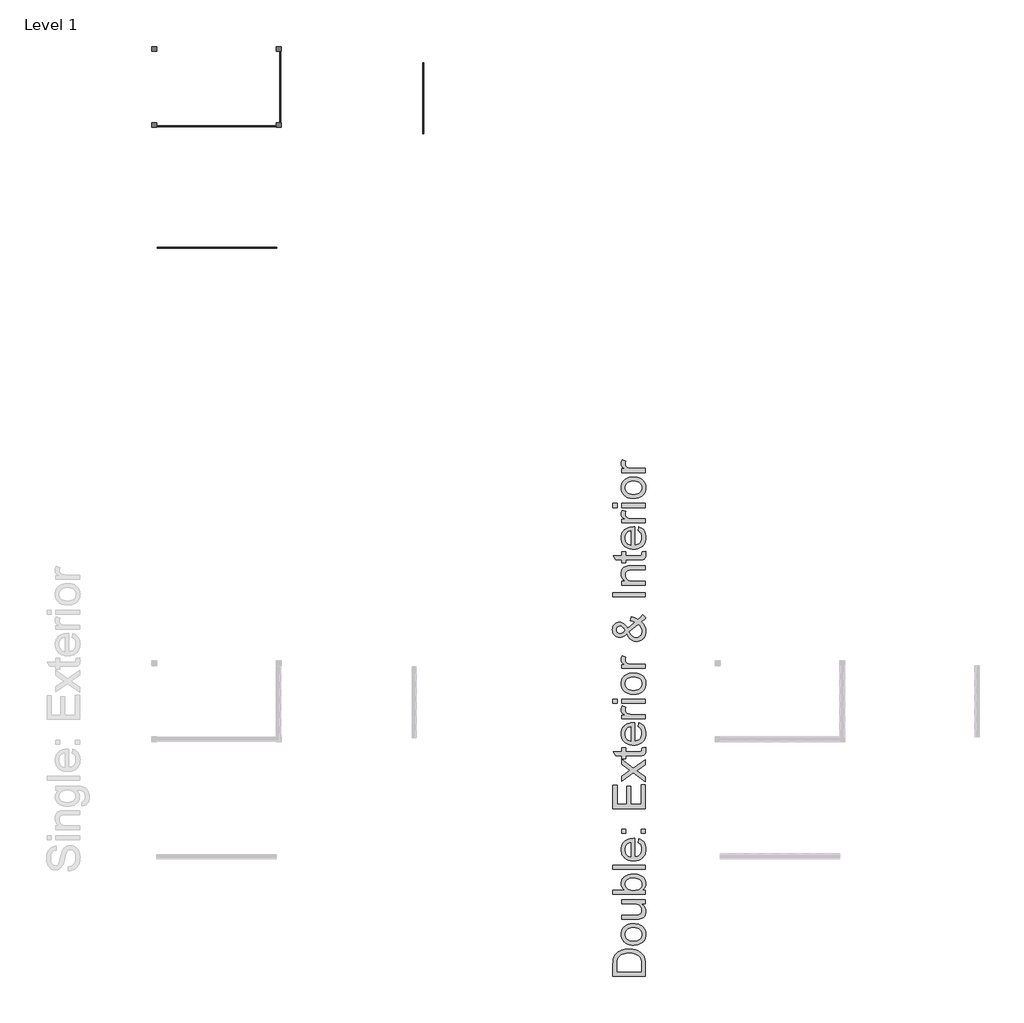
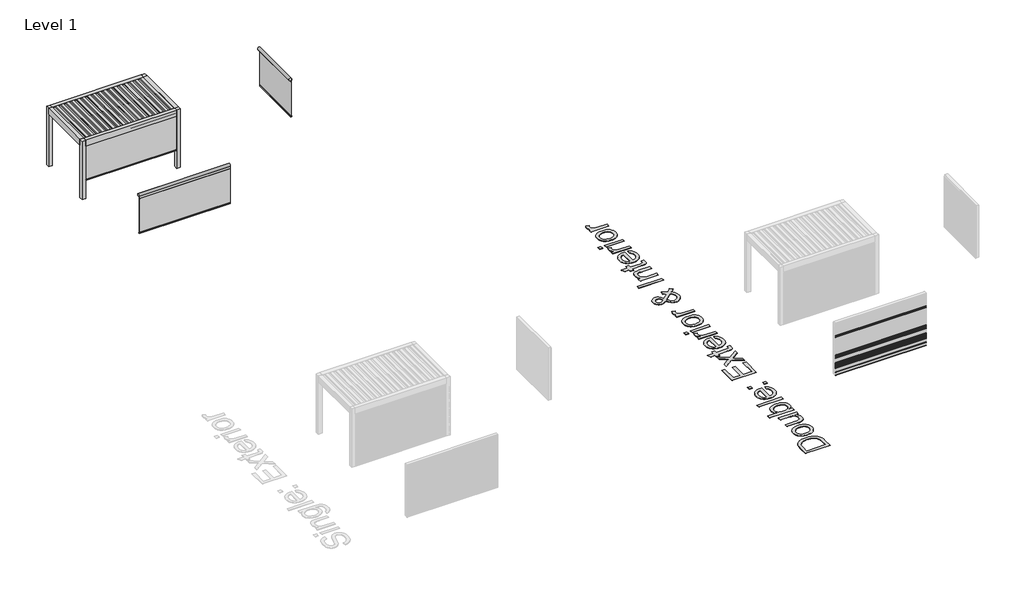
# One storey, part 62 of 69: 21 proxies.
"""IFC4 building model written with IfcOpenShell, lengths in millimetres."""

from ifc_helpers import new_model, si_unit, frame, origin, origin_with_axes, place, context, project, spatial, polyline, outline, extrude, transform, mapped, element, save
from components import generic_models_059fa392, generic_models_3550dacb, generic_models_9b0df196

model = new_model("IFC4")

# Units and contexts
model_context = context("Model", 3, world=origin())
ifc_project = project(units=[si_unit("LENGTHUNIT", "METRE", prefix="MILLI")], contexts=[model_context])

# Site, building, storey
site = spatial("IfcSite", under=ifc_project)
building = spatial("IfcBuilding", under=site)
storey = spatial("IfcBuildingStorey", under=building, Name="Level 1", Elevation=0.0)

# Proxies
placement = place(None, origin())
element("IfcBuildingElementProxy", 1, Name="Wall Sweeps", at=placement, inside=storey, context=model_context, shape_type="SweptSolid", body=[
    extrude(outline(polyline([(35894.0955424, 741.9), (35913.2455424, 752.9562577), (35913.2455424, 765.9), (35914.4955424, 765.9), (35914.4955424, 752.2345698), (35895.3455424, 741.1782281), (35895.3455424, 729.1216933), (35894.0955424, 728.4), (35894.0955424, 741.9)])), frame((224550.5749426, 0.0, 0.0), z_axis=(1.0, 0.0, 0.0), x_axis=(0.0, 1.0, 0.0)), (0.0, 0.0, 1.0), 3700.0),
])
element("IfcBuildingElementProxy", 2, Name="Wall Sweeps", at=placement, inside=storey, context=model_context, shape_type="SweptSolid", body=[
    extrude(outline(polyline([(35894.0955424, 808.5), (35913.2455424, 819.5562577), (35913.2455424, 832.5), (35914.4955424, 832.5), (35914.4955424, 818.8345698), (35895.3455424, 807.7782281), (35895.3455424, 795.7216933), (35894.0955424, 795.0), (35894.0955424, 808.5)])), frame((224550.5749426, 0.0, 0.0), z_axis=(1.0, 0.0, 0.0), x_axis=(0.0, 1.0, 0.0)), (0.0, 0.0, 1.0), 3700.0),
])
element("IfcBuildingElementProxy", 3, Name="Wall Sweeps", at=placement, inside=storey, context=model_context, shape_type="SweptSolid", body=[
    extrude(outline(polyline([(35894.0955424, 875.1), (35913.2455424, 886.1562577), (35913.2455424, 899.1), (35914.4955424, 899.1), (35914.4955424, 885.4345698), (35895.3455424, 874.3782281), (35895.3455424, 862.3216933), (35894.0955424, 861.6), (35894.0955424, 875.1)])), frame((224550.5749426, 0.0, 0.0), z_axis=(1.0, 0.0, 0.0), x_axis=(0.0, 1.0, 0.0)), (0.0, 0.0, 1.0), 3700.0),
])
element("IfcBuildingElementProxy", 4, Name="Wall Sweeps", at=placement, inside=storey, context=model_context, shape_type="SweptSolid", body=[
    extrude(outline(polyline([(35894.0955424, 1641.0), (35913.2455424, 1652.0562577), (35913.2455424, 1665.0), (35914.4955424, 1665.0), (35914.4955424, 1651.3345698), (35895.3455424, 1640.2782281), (35895.3455424, 1628.2216933), (35894.0955424, 1627.5), (35894.0955424, 1641.0)])), frame((224550.5749426, 0.0, 0.0), z_axis=(1.0, 0.0, 0.0), x_axis=(0.0, 1.0, 0.0)), (0.0, 0.0, 1.0), 3700.0),
])
element("IfcBuildingElementProxy", 5, Name="Wall Sweeps", at=placement, inside=storey, context=model_context, shape_type="SweptSolid", body=[
    extrude(outline(polyline([(35894.0955424, 142.5), (35913.2455424, 153.5562577), (35913.2455424, 166.5), (35914.4955424, 166.5), (35914.4955424, 152.8345698), (35895.3455424, 141.7782281), (35895.3455424, 129.7216933), (35894.0955424, 129.0), (35894.0955424, 142.5)])), frame((224550.5749426, 0.0, 0.0), z_axis=(1.0, 0.0, 0.0), x_axis=(0.0, 1.0, 0.0)), (0.0, 0.0, 1.0), 3700.0),
])
element("IfcBuildingElementProxy", 6, Name="Wall Sweeps", at=placement, inside=storey, context=model_context, shape_type="SweptSolid", body=[
    extrude(outline(polyline([(35894.0955424, 1707.6), (35913.2455424, 1718.6562577), (35913.2455424, 1731.6), (35914.4955424, 1731.6), (35914.4955424, 1717.9345698), (35895.3455424, 1706.8782281), (35895.3455424, 1694.8216933), (35894.0955424, 1694.1), (35894.0955424, 1707.6)])), frame((224550.5749426, 0.0, 0.0), z_axis=(1.0, 0.0, 0.0), x_axis=(0.0, 1.0, 0.0)), (0.0, 0.0, 1.0), 3700.0),
])
element("IfcBuildingElementProxy", 7, Name="Wall Sweeps", at=placement, inside=storey, context=model_context, shape_type="SweptSolid", body=[
    extrude(outline(polyline([(35894.0955424, 309.0), (35913.2455424, 320.0562577), (35913.2455424, 333.0), (35914.4955424, 333.0), (35914.4955424, 319.3345698), (35895.3455424, 308.2782281), (35895.3455424, 296.2216933), (35894.0955424, 295.5), (35894.0955424, 309.0)])), frame((224550.5749426, 0.0, 0.0), z_axis=(1.0, 0.0, 0.0), x_axis=(0.0, 1.0, 0.0)), (0.0, 0.0, 1.0), 3700.0),
])
element("IfcBuildingElementProxy", 8, Name="Wall Sweeps", at=placement, inside=storey, context=model_context, shape_type="SweptSolid", body=[
    extrude(outline(polyline([(35894.0955424, 9.3), (35913.2455424, 20.3562577), (35913.2455424, 33.3), (35914.4955424, 33.3), (35914.4955424, 19.6345698), (35895.3455424, 8.5782281), (35895.3455424, -3.4783067), (35894.0955424, -4.2), (35894.0955424, 9.3)])), frame((224550.5749426, 0.0, 0.0), z_axis=(1.0, 0.0, 0.0), x_axis=(0.0, 1.0, 0.0)), (0.0, 0.0, 1.0), 3700.0),
])
element("IfcBuildingElementProxy", 9, Name="Wall Sweeps", at=placement, inside=storey, context=model_context, shape_type="SweptSolid", body=[
    extrude(outline(polyline([(35894.0955424, 342.3), (35913.2455424, 353.3562577), (35913.2455424, 366.3), (35914.4955424, 366.3), (35914.4955424, 352.6345698), (35895.3455424, 341.5782281), (35895.3455424, 329.5216933), (35894.0955424, 328.8), (35894.0955424, 342.3)])), frame((224550.5749426, 0.0, 0.0), z_axis=(1.0, 0.0, 0.0), x_axis=(0.0, 1.0, 0.0)), (0.0, 0.0, 1.0), 3700.0),
])
element("IfcBuildingElementProxy", 10, Name="Wall Sweeps", at=placement, inside=storey, context=model_context, shape_type="SweptSolid", body=[
    extrude(outline(polyline([(35894.0955424, 375.6), (35913.2455424, 386.6562577), (35913.2455424, 399.6), (35914.4955424, 399.6), (35914.4955424, 385.9345698), (35895.3455424, 374.8782281), (35895.3455424, 362.8216933), (35894.0955424, 362.1), (35894.0955424, 375.6)])), frame((224550.5749426, 0.0, 0.0), z_axis=(1.0, 0.0, 0.0), x_axis=(0.0, 1.0, 0.0)), (0.0, 0.0, 1.0), 3700.0),
])
element("IfcBuildingElementProxy", 11, Name="Wall Sweeps", at=placement, inside=storey, context=model_context, shape_type="SweptSolid", body=[
    extrude(outline(polyline([(35894.0955424, 408.9), (35913.2455424, 419.9562577), (35913.2455424, 432.9), (35914.4955424, 432.9), (35914.4955424, 419.2345698), (35895.3455424, 408.1782281), (35895.3455424, 396.1216933), (35894.0955424, 395.4), (35894.0955424, 408.9)])), frame((224550.5749426, 0.0, 0.0), z_axis=(1.0, 0.0, 0.0), x_axis=(0.0, 1.0, 0.0)), (0.0, 0.0, 1.0), 3700.0),
])
element("IfcBuildingElementProxy", 12, Name="Wall Sweeps", at=placement, inside=storey, context=model_context, shape_type="SweptSolid", body=[
    extrude(outline(polyline([(35894.0955424, 442.2), (35913.2455424, 453.2562577), (35913.2455424, 466.2), (35914.4955424, 466.2), (35914.4955424, 452.5345698), (35895.3455424, 441.4782281), (35895.3455424, 429.4216933), (35894.0955424, 428.7), (35894.0955424, 442.2)])), frame((224550.5749426, 0.0, 0.0), z_axis=(1.0, 0.0, 0.0), x_axis=(0.0, 1.0, 0.0)), (0.0, 0.0, 1.0), 3700.0),
])
element("IfcBuildingElementProxy", 13, Name="Wall Sweeps", at=placement, inside=storey, context=model_context, shape_type="SweptSolid", body=[
    extrude(outline(polyline([(35894.0955424, 475.5), (35913.2455424, 486.5562577), (35913.2455424, 499.5), (35914.4955424, 499.5), (35914.4955424, 485.8345698), (35895.3455424, 474.7782281), (35895.3455424, 462.7216933), (35894.0955424, 462.0), (35894.0955424, 475.5)])), frame((224550.5749426, 0.0, 0.0), z_axis=(1.0, 0.0, 0.0), x_axis=(0.0, 1.0, 0.0)), (0.0, 0.0, 1.0), 3700.0),
])
element("IfcBuildingElementProxy", 14, Name="Wall Sweeps", at=placement, inside=storey, context=model_context, shape_type="SweptSolid", body=[
    extrude(outline(polyline([(35894.0955424, 508.8), (35913.2455424, 519.8562577), (35913.2455424, 532.8), (35914.4955424, 532.8), (35914.4955424, 519.1345698), (35895.3455424, 508.0782281), (35895.3455424, 496.0216933), (35894.0955424, 495.3), (35894.0955424, 508.8)])), frame((224550.5749426, 0.0, 0.0), z_axis=(1.0, 0.0, 0.0), x_axis=(0.0, 1.0, 0.0)), (0.0, 0.0, 1.0), 3700.0),
])
element("IfcBuildingElementProxy", 15, Name="Wall Sweeps", at=placement, inside=storey, context=model_context, shape_type="SweptSolid", body=[
    extrude(outline(polyline([(35894.0955424, 542.1), (35913.2455424, 553.1562577), (35913.2455424, 566.1), (35914.4955424, 566.1), (35914.4955424, 552.4345698), (35895.3455424, 541.3782281), (35895.3455424, 529.3216933), (35894.0955424, 528.6), (35894.0955424, 542.1)])), frame((224550.5749426, 0.0, 0.0), z_axis=(1.0, 0.0, 0.0), x_axis=(0.0, 1.0, 0.0)), (0.0, 0.0, 1.0), 3700.0),
])
generic_models_shape = generic_models_059fa392(model_context)
element("IfcBuildingElementProxy", 16, Name="Renson_Camargue_Fixscreen : Renson_Camargue_Fixscreen", ObjectType="Renson_Camargue_Fixscreen : Renson_Camargue_Fixscreen", at=placement, inside=storey, context=model_context, shape_type="MappedRepresentation", body=[
    mapped(generic_models_shape, transform((208975.5749426, 58550.0525873, 0.0), x_axis=(1.0, 0.0, 0.0), y_axis=(0.0, 1.0, 0.0), z_axis=(0.0, 0.0, 1.0))),
])
element("IfcBuildingElementProxy", 17, Name="Renson_Camargue_Fixscreen : Renson_Camargue_Fixscreen", ObjectType="Renson_Camargue_Fixscreen : Renson_Camargue_Fixscreen", at=placement, inside=storey, context=model_context, shape_type="MappedRepresentation", body=[
    mapped(generic_models_shape, transform((208990.5749426, 54786.9887613, 0.0), x_axis=(1.0, 0.0, 0.0), y_axis=(0.0, 1.0, 0.0), z_axis=(0.0, 0.0, 1.0))),
])
generic_models_2_shape = generic_models_3550dacb(model_context)
element("IfcBuildingElementProxy", 18, Name="Renson_Camargue_Fixscreen : Renson_Camargue_Fixscreen", ObjectType="Renson_Camargue_Fixscreen : Renson_Camargue_Fixscreen", at=placement, inside=storey, context=model_context, shape_type="MappedRepresentation", body=[
    mapped(generic_models_2_shape, transform((210940.5749426, 59765.0525873, 0.0), x_axis=(0.0, 1.0, 0.0), y_axis=(-1.0, 0.0, 0.0), z_axis=(0.0, 0.0, 1.0))),
])
element("IfcBuildingElementProxy", 19, Name="Renson_Camargue_Fixscreen : Renson_Camargue_Fixscreen", ObjectType="Renson_Camargue_Fixscreen : Renson_Camargue_Fixscreen", at=placement, inside=storey, context=model_context, shape_type="MappedRepresentation", body=[
    mapped(generic_models_2_shape, transform((215365.5749426, 59415.0525873, 0.0), x_axis=(0.0, 1.0, 0.0), y_axis=(-1.0, 0.0, 0.0), z_axis=(0.0, 0.0, 1.0))),
])
generic_models_3_shape = generic_models_9b0df196(model_context)
element("IfcBuildingElementProxy", 20, Name="Renson_Camargue_Freestanding_Patio covers : Renson_Camargue_Freestanding_Patio covers", ObjectType="Renson_Camargue_Freestanding_Patio covers : Renson_Camargue_Freestanding_Patio covers", at=placement, inside=storey, context=model_context, shape_type="MappedRepresentation", body=[
    mapped(generic_models_3_shape, transform((208975.5749426, 59765.0525873, 0.0), x_axis=(1.0, 0.0, 0.0), y_axis=(0.0, 1.0, 0.0), z_axis=(0.0, 0.0, 1.0))),
])
element("IfcBuildingElementProxy", 21, Name="1000mm Arial", ObjectType="1000mm Arial", at=placement, inside=storey, context=model_context, shape_type="SweptSolid", body=[
    extrude(outline(polyline([(222238.2731482, 32271.9826766), (221233.7100467, 32271.9826766), (221233.7100467, 32618.527516), (221237.327553, 32722.0862977), (221248.1800719, 32797.808675), (221260.1209083, 32839.4099973), (221276.0777898, 32877.8843226), (221296.0507165, 32913.231651), (221320.0396883, 32945.4519824), (221355.9694965, 32982.684706), (221396.5591433, 33014.9203658), (221441.8086287, 33042.1589619), (221491.7179527, 33064.4004942), (221545.8272628, 33081.6756195), (221603.6767066, 33094.0149948), (221665.2662839, 33101.41862), (221730.5959949, 33103.886495), (221786.1231835, 33102.2156976), (221838.4160763, 33097.2033054), (221887.4746732, 33088.8493185), (221933.2989742, 33077.1537367), (222014.079729, 33046.6195311), (222048.7449428, 33028.5013428), (222079.593381, 33008.4824309), (222131.3114581, 32964.5818462), (222170.7054885, 32916.7571868), (222199.9214502, 32861.850799), (222221.1053218, 32796.705029), (222233.9811916, 32721.1972495), (222238.2731482, 32635.2048332), (222238.2731482, 32271.9826766)]), holes=[polyline([(222112.7027605, 32397.5530643), (222112.7027605, 32619.7537894), (222108.1655493, 32711.6629745), (222102.4940352, 32749.2942369), (222094.5539155, 32781.3766126), (222072.6649367, 32833.9837379), (222058.9153472, 32855.7807461), (222043.2956908, 32874.5733847), (222018.1187667, 32897.7422862), (221988.941126, 32918.1980579), (221955.7627686, 32935.9407), (221918.5836944, 32950.9702123), (221877.3272615, 32962.9340414), (221831.9168277, 32971.4796336), (221782.3523931, 32976.6069889), (221728.6339576, 32978.3161073), (221655.7320089, 32974.9668483), (221591.7818554, 32964.9190713), (221536.7834971, 32948.1727763), (221490.736934, 32924.7279634), (221452.5998339, 32896.485356), (221421.3298643, 32865.345678), (221396.9270253, 32831.3089292), (221379.3913168, 32794.3751097), (221370.5928058, 32762.4613467), (221364.308155, 32722.1476113), (221359.2804344, 32616.3202241), (221359.2804344, 32397.5530643), (222112.7027605, 32397.5530643)])]), origin_with_axes(), (0.0, 0.0, 1.0), 5.0),
    extrude(outline(polyline([(221869.4101344, 33229.4568827), (221819.9874876, 33231.1545048), (221773.8681146, 33236.2473712), (221731.0520153, 33244.7354818), (221691.5391897, 33256.6188367), (221655.3296379, 33271.8974358), (221622.4233599, 33290.5712791), (221592.8203556, 33312.6403668), (221566.520625, 33338.1046986), (221530.7900863, 33385.9600148), (221505.2682728, 33438.781738), (221489.9551848, 33496.569868), (221484.8508221, 33559.324405), (221486.4047403, 33594.7924447), (221491.066495, 33628.6011833), (221498.8360861, 33660.7506207), (221509.7135136, 33691.2407571), (221523.6987776, 33720.0715925), (221540.791878, 33747.2431267), (221560.9928149, 33772.7553599), (221584.3015881, 33796.6082919), (221610.3503159, 33818.1926184), (221638.7711161, 33836.8990346), (221669.5639887, 33852.7275407), (221702.7289338, 33865.6781365), (221738.2659513, 33875.7508222), (221776.1750413, 33882.9455977), (221859.1094385, 33888.7014181), (221926.3245447, 33886.1569009), (221985.9674132, 33878.5233495), (222038.0380439, 33865.8007639), (222082.5364369, 33847.9891439), (222120.9724412, 33825.3107518), (222154.8559058, 33797.9878494), (222184.1868307, 33766.0204369), (222208.965216, 33729.4085141), (222228.6545669, 33689.577624), (222242.718389, 33647.953309), (222251.1566823, 33604.5355694), (222253.9694467, 33559.324405), (222252.4212766, 33523.2968782), (222247.7767664, 33489.0359513), (222240.0359161, 33456.5416245), (222229.1987257, 33425.8138976), (222215.2651951, 33396.8527708), (222198.2353244, 33369.6582439), (222178.1091136, 33344.230317), (222154.8865627, 33320.5689902), (222128.7516126, 33299.21459), (222099.8882044, 33280.7074431), (222068.296338, 33265.0475497), (222033.9760136, 33252.2349096), (221996.927231, 33242.2695228), (221957.1499903, 33235.1513894), (221869.4101344, 33229.4568827)]), holes=[polyline([(221869.1648797, 33355.0272704), (221930.0723426, 33358.6601051), (221982.8097594, 33369.5586092), (222027.3771303, 33387.7227827), (222063.7744552, 33413.1526256), (222092.0477194, 33444.08537), (222112.2429081, 33478.7582481), (222124.3600213, 33517.1712598), (222128.399059, 33559.324405), (222124.3370286, 33601.2629525), (222112.1509376, 33639.52268), (222091.8407857, 33674.1035875), (222063.4065732, 33705.0056751), (222026.6490305, 33730.435518), (221981.3688883, 33748.5996916), (221927.5661465, 33759.4981957), (221865.2408051, 33763.1310304), (221806.2647228, 33759.475203), (221754.9068634, 33748.5077211), (221711.167227, 33730.2285844), (221675.0458136, 33704.6377931), (221646.7725494, 33673.6207424), (221626.5773608, 33639.0628275), (221614.4602475, 33600.9640484), (221610.4212098, 33559.324405), (221614.4449191, 33517.1712598), (221626.5160471, 33478.7582481), (221646.6345937, 33444.08537), (221674.800559, 33413.1526256), (221711.0905849, 33387.7227827), (221755.5813137, 33369.5586092), (221808.2727453, 33358.6601051), (221869.1648797, 33355.0272704)])]), origin_with_axes(), (0.0, 0.0, 1.0), 5.0),
    extrude(outline(polyline([(222238.2731482, 34500.857058), (222111.4764872, 34500.857058), (222144.8732746, 34479.0753782), (222173.817157, 34455.4236316), (222198.3081344, 34429.9018182), (222218.3462068, 34402.509938), (222233.9313743, 34373.2479909), (222245.0636367, 34342.1159771), (222251.7429942, 34309.1138965), (222253.9694467, 34274.241749), (222252.4059482, 34243.1327278), (222247.7154528, 34213.0813673), (222239.8979604, 34184.0876676), (222228.953471, 34156.1516285), (222200.7491847, 34108.3882828), (222184.2558086, 34089.7949137), (222166.1682772, 34074.7270803), (222124.1684161, 34052.0716807), (222073.7072691, 34037.3257441), (222026.1278643, 34031.8075142), (221956.9660493, 34029.9681042), (221500.5471206, 34029.9681042), (221500.5471206, 34155.5384919), (221897.8596754, 34155.5384919), (221977.3221863, 34157.4392155), (222025.8826097, 34163.1413865), (222048.5150166, 34170.6599747), (222068.587578, 34181.4435157), (222086.1002938, 34195.4920094), (222101.053164, 34212.8054558), (222113.0169931, 34232.8626887), (222121.5625853, 34255.1425421), (222126.6899406, 34279.6450158), (222128.399059, 34306.3701099), (222126.6516195, 34333.8922817), (222121.4093011, 34360.5407337), (222112.6721037, 34386.315466), (222100.4400274, 34411.2164785), (222085.1959172, 34433.8948707), (222067.4226183, 34453.0017418), (222047.1201307, 34468.5370919), (222024.2884544, 34480.500921), (221997.4713898, 34489.4067309), (221965.2127373, 34495.7680238), (221884.3706689, 34500.857058), (221500.5471206, 34500.857058), (221500.5471206, 34626.4274457), (222238.2731482, 34626.4274457), (222238.2731482, 34500.857058)])), origin_with_axes(), (0.0, 0.0, 1.0), 5.0),
    extrude(outline(polyline([(222238.2731482, 34924.6571165), (222238.2731482, 34799.0867288), (221233.7100467, 34799.0867288), (221233.7100467, 34924.6571165), (221606.2518805, 34924.6571165), (221577.7985075, 34944.6377073), (221553.1389175, 34965.9518704), (221532.2731106, 34988.5996058), (221515.2010867, 35012.5809133), (221501.922846, 35037.8957931), (221492.4383883, 35064.5442451), (221486.7477136, 35092.5262694), (221484.8508221, 35121.8418659), (221486.5599405, 35154.6293487), (221491.6872959, 35186.5277834), (221500.232888, 35217.5371699), (221512.1967171, 35247.6575082), (221527.2568863, 35276.0150787), (221545.0914988, 35301.7361615), (221565.7005548, 35324.8207567), (221589.0840541, 35345.2688643), (221643.7451872, 35379.3899193), (221708.6457025, 35405.2336295), (221781.0877987, 35421.5124078), (221858.3736745, 35426.9386672), (221947.5544015, 35421.3208026), (221988.1210557, 35414.2984718), (222026.005237, 35404.4672087), (222061.2069454, 35391.8270133), (222093.726181, 35376.3778855), (222123.5629436, 35358.1198254), (222150.7172334, 35337.0528331), (222195.8900767, 35289.8489746), (222213.6365509, 35264.5513392), (222228.1563934, 35238.1232332), (222239.4496042, 35210.5646564), (222247.5161834, 35181.875609), (222252.3561309, 35152.0560908), (222253.9694467, 35121.1061019), (222251.8886142, 35090.6753631), (222245.6461166, 35061.9230859), (222235.2419539, 35034.8492703), (222220.6761261, 35009.4539164), (222201.9486333, 34985.737024), (222179.0594754, 34963.6985932), (222152.0086525, 34943.338624), (222120.7961644, 34924.6571165), (222238.2731482, 34924.6571165)]), holes=[polyline([(221864.2597865, 34924.6571165), (221920.8523001, 34926.8030948), (221968.9835278, 34933.2410297), (222008.6534696, 34943.9709212), (222039.8621255, 34958.9927694), (222078.5970339, 34989.419676), (222106.2648256, 35024.7823328), (222122.8655007, 35065.0807397), (222128.399059, 35110.3148967), (222124.3217002, 35147.869517), (222112.0896239, 35182.7876498), (222091.70283, 35215.0692948), (222063.1613185, 35244.7144523), (222026.5417316, 35269.5005017), (221981.9207113, 35287.2048227), (221929.2982575, 35297.8274153), (221868.6743704, 35301.3682795), (221806.9008521, 35297.9730353), (221753.7725606, 35287.7873025), (221709.289496, 35270.8110813), (221673.4516583, 35247.0443716), (221645.8758371, 35218.4645391), (221626.1788219, 35187.0489495), (221614.3606128, 35152.7976029), (221610.4212098, 35115.7104993), (221614.4985686, 35078.155879), (221626.7306449, 35043.2377462), (221647.1174388, 35010.9561012), (221675.6589503, 34981.3109437), (221711.9106552, 34956.5248943), (221755.4280296, 34938.8205733), (221806.2110733, 34928.1979807), (221864.2597865, 34924.6571165)])]), origin_with_axes(), (0.0, 0.0, 1.0), 5.0),
    extrude(outline(polyline([(222238.2731482, 35568.2053534), (221233.7100467, 35568.2053534), (221233.7100467, 35693.7757411), (222238.2731482, 35693.7757411), (222238.2731482, 35568.2053534)])), origin_with_axes(), (0.0, 0.0, 1.0), 5.0),
    extrude(outline(polyline([(222018.5249698, 36398.6376438), (222034.2212682, 36521.7554849), (222083.532784, 36502.87854), (222126.9888447, 36477.3950476), (222164.5894503, 36445.3050077), (222196.3346008, 36406.6084204), (222221.5498459, 36361.7038243), (222239.5607352, 36310.9897585), (222250.3672688, 36254.4662227), (222253.9694467, 36192.1332172), (222252.4155285, 36152.1145539), (222247.7537738, 36114.2188763), (222239.9841827, 36078.4461844), (222229.1067552, 36044.7964781), (222215.1214912, 36013.2697576), (222198.0283908, 35983.8660227), (222177.827454, 35956.5852735), (222154.5186807, 35931.4275099), (222128.4048072, 35908.8372562), (222099.7885697, 35889.2590362), (222068.6699682, 35872.6928501), (222035.0490027, 35859.1386979), (221998.9256733, 35848.5965795), (221960.2999798, 35841.0664949), (221919.1719224, 35836.5484441), (221875.541501, 35835.0424272), (221830.4261392, 35836.5637725), (221787.9089441, 35841.1278085), (221747.9899155, 35848.7345352), (221710.6690535, 35859.3839525), (221675.9463581, 35873.0760606), (221643.8218293, 35889.8108592), (221614.2954671, 35909.5883486), (221587.3672714, 35932.4085286), (221563.3399786, 35957.6544305), (221542.5163249, 35984.7090856), (221524.8963101, 36013.5724938), (221510.4799344, 36044.2446551), (221499.2671978, 36076.7255696), (221491.2581002, 36111.0152372), (221486.4526416, 36147.113658), (221484.8508221, 36185.0208319), (221486.4488095, 36221.6883202), (221491.2427718, 36256.6428579), (221499.2327089, 36289.884445), (221510.4186208, 36321.4130817), (221524.8005075, 36351.2287677), (221542.3783691, 36379.3315033), (221563.1522055, 36405.7212883), (221587.1220168, 36430.3981227), (221613.9888987, 36452.7297095), (221643.4539473, 36472.0837513), (221675.5171624, 36488.4602482), (221710.1785442, 36501.8592003), (221747.4380925, 36512.2806074), (221787.2958074, 36519.7244697), (221874.805737, 36525.6795595), (221908.6508806, 36524.9437955), (221908.6508806, 35960.6128149), (221958.759474, 35967.8861485), (222002.6447303, 35982.3485094), (222040.3066496, 36003.9998977), (222071.7452318, 36032.8403133), (222096.5312812, 36067.2756009), (222114.2356022, 36105.7116052), (222124.8581948, 36148.1483261), (222128.399059, 36194.5857638), (222126.7589184, 36229.3199555), (222121.8384968, 36261.4176596), (222113.637794, 36290.8788761), (222102.15681, 36317.7036049), (222087.0889766, 36341.8918461), (222068.1277255, 36363.4435996), (222045.2730565, 36382.3588655), (222018.5249698, 36398.6376438)]), holes=[polyline([(221783.0804929, 35960.6128149), (221783.0804929, 36400.1091718), (221747.5492235, 36393.6559085), (221716.7391064, 36383.1252863), (221690.6501416, 36368.5173055), (221669.282329, 36349.8319658), (221643.5305894, 36315.5882834), (221625.1364896, 36276.6234487), (221614.1000298, 36232.9374618), (221610.4212098, 36184.5303226), (221613.3566016, 36140.376819), (221622.1627768, 36099.8868069), (221636.8397356, 36063.0602863), (221657.3874778, 36029.8972573), (221682.8556418, 36002.0685172), (221712.2938656, 35981.2448635), (221745.7021493, 35967.426296), (221783.0804929, 35960.6128149)])]), origin_with_axes(), (0.0, 0.0, 1.0), 5.0),
    extrude(outline(polyline([(221626.1175083, 36682.6425441), (221500.5471206, 36682.6425441), (221500.5471206, 36808.2129318), (221626.1175083, 36808.2129318), (221626.1175083, 36682.6425441)])), origin_with_axes(), (0.0, 0.0, 1.0), 5.0),
    extrude(outline(polyline([(222238.2731482, 36682.6425441), (222112.7027605, 36682.6425441), (222112.7027605, 36808.2129318), (222238.2731482, 36808.2129318), (222238.2731482, 36682.6425441)])), origin_with_axes(), (0.0, 0.0, 1.0), 5.0),
    extrude(outline(polyline([(222238.2731482, 37451.7611687), (221233.7100467, 37451.7611687), (221233.7100467, 38173.7908979), (221359.2804344, 38173.7908979), (221359.2804344, 37577.3315564), (221657.5101052, 37577.3315564), (221657.5101052, 38142.3983009), (221783.0804929, 38142.3983009), (221783.0804929, 37577.3315564), (222112.7027605, 37577.3315564), (222112.7027605, 38189.4871963), (222238.2731482, 38189.4871963), (222238.2731482, 37451.7611687)])), origin_with_axes(), (0.0, 0.0, 1.0), 5.0),
    extrude(outline(polyline([(222238.2731482, 38283.6649871), (221867.4480971, 38551.9735889), (221500.5471206, 38299.3612856), (221500.5471206, 38450.4381582), (221677.1304783, 38572.329726), (221760.5170638, 38629.2288079), (221692.3362674, 38678.5249953), (221500.5471206, 38817.3391348), (221500.5471206, 38968.4160075), (221867.4480971, 38703.0504616), (222238.2731482, 38958.6058209), (222238.2731482, 38807.5289482), (222015.3366592, 38653.7542742), (221974.624385, 38625.5499879), (222238.2731482, 38434.7418598), (222238.2731482, 38283.6649871)])), origin_with_axes(), (0.0, 0.0, 1.0), 5.0),
    extrude(outline(polyline([(222133.5494069, 39335.316984), (222241.9519682, 39351.0132824), (222250.9650771, 39301.2878994), (222253.9694467, 39257.0807463), (222248.7577851, 39196.8094128), (222242.2432081, 39172.4219022), (222233.1228003, 39151.8664957), (222209.0265296, 39120.1060168), (222194.5411761, 39108.3644498), (222178.4310104, 39099.3819977), (222156.8332716, 39092.729465), (222125.8851987, 39087.9776559), (222035.9380509, 39084.1762086), (221626.1175083, 39084.1762086), (221626.1175083, 38989.9984178), (221500.5471206, 38989.9984178), (221500.5471206, 39084.1762086), (221321.2659616, 39084.1762086), (221247.4443079, 39209.7465963), (221500.5471206, 39209.7465963), (221500.5471206, 39335.316984), (221626.1175083, 39335.316984), (221626.1175083, 39209.7465963), (222032.2592309, 39209.7465963), (222073.5846417, 39211.4020653), (222097.0064621, 39216.3684722), (222109.9743024, 39225.0443559), (222119.9377731, 39237.8282553), (222126.2837375, 39255.9464435), (222128.399059, 39280.625194), (222133.5494069, 39335.316984)])), origin_with_axes(), (0.0, 0.0, 1.0), 5.0),
    extrude(outline(polyline([(222018.5249698, 39977.3936929), (222034.2212682, 40100.5115339), (222083.532784, 40081.6345891), (222126.9888447, 40056.1510967), (222164.5894503, 40024.0610568), (222196.3346008, 39985.3644695), (222221.5498459, 39940.4598734), (222239.5607352, 39889.7458075), (222250.3672688, 39833.2222718), (222253.9694467, 39770.8892663), (222252.4155285, 39730.870603), (222247.7537738, 39692.9749254), (222239.9841827, 39657.2022334), (222229.1067552, 39623.5525272), (222215.1214912, 39592.0258066), (222198.0283908, 39562.6220717), (222177.827454, 39535.3413225), (222154.5186807, 39510.183559), (222128.4048072, 39487.5933053), (222099.7885697, 39468.0150853), (222068.6699682, 39451.4488992), (222035.0490027, 39437.894747), (221998.9256733, 39427.3526285), (221960.2999798, 39419.822544), (221919.1719224, 39415.3044932), (221875.541501, 39413.7984763), (221830.4261392, 39415.3198216), (221787.9089441, 39419.8838576), (221747.9899155, 39427.4905843), (221710.6690535, 39438.1400016), (221675.9463581, 39451.8321096), (221643.8218293, 39468.5669083), (221614.2954671, 39488.3443977), (221587.3672714, 39511.1645777), (221563.3399786, 39536.4104796), (221542.5163249, 39563.4651347), (221524.8963101, 39592.3285429), (221510.4799344, 39623.0007042), (221499.2671978, 39655.4816187), (221491.2581002, 39689.7712863), (221486.4526416, 39725.8697071), (221484.8508221, 39763.776881), (221486.4488095, 39800.4443693), (221491.2427718, 39835.398907), (221499.2327089, 39868.6404941), (221510.4186208, 39900.1691307), (221524.8005075, 39929.9848168), (221542.3783691, 39958.0875524), (221563.1522055, 39984.4773374), (221587.1220168, 40009.1541718), (221613.9888987, 40031.4857585), (221643.4539473, 40050.8398004), (221675.5171624, 40067.2162973), (221710.1785442, 40080.6152494), (221747.4380925, 40091.0366565), (221787.2958074, 40098.4805188), (221874.805737, 40104.4356086), (221908.6508806, 40103.6998446), (221908.6508806, 39539.368864), (221958.759474, 39546.6421976), (222002.6447303, 39561.1045585), (222040.3066496, 39582.7559468), (222071.7452318, 39611.5963624), (222096.5312812, 39646.0316499), (222114.2356022, 39684.4676542), (222124.8581948, 39726.9043752), (222128.399059, 39773.3418129), (222126.7589184, 39808.0760046), (222121.8384968, 39840.1737087), (222113.637794, 39869.6349251), (222102.15681, 39896.459654), (222087.0889766, 39920.6478951), (222068.1277255, 39942.1996487), (222045.2730565, 39961.1149146), (222018.5249698, 39977.3936929)]), holes=[polyline([(221783.0804929, 39539.368864), (221783.0804929, 39978.8652209), (221747.5492235, 39972.4119575), (221716.7391064, 39961.8813354), (221690.6501416, 39947.2733545), (221669.282329, 39928.5880149), (221643.5305894, 39894.3443325), (221625.1364896, 39855.3794978), (221614.1000298, 39811.6935109), (221610.4212098, 39763.2863717), (221613.3566016, 39719.1328681), (221622.1627768, 39678.642856), (221636.8397356, 39641.8163354), (221657.3874778, 39608.6533064), (221682.8556418, 39580.8245663), (221712.2938656, 39560.0009125), (221745.7021493, 39546.1823451), (221783.0804929, 39539.368864)])]), origin_with_axes(), (0.0, 0.0, 1.0), 5.0),
    extrude(outline(polyline([(222238.2731482, 40230.0059962), (221500.5471206, 40230.0059962), (221500.5471206, 40339.8800855), (221609.6854458, 40339.8800855), (221546.4097426, 40380.4697323), (221524.5207639, 40399.5689392), (221509.1310338, 40417.8710685), (221490.920875, 40455.395032), (221484.8508221, 40496.3525608), (221487.2727119, 40527.499903), (221494.5383813, 40558.8924999), (221506.6478303, 40590.5303515), (221523.6010589, 40622.4134578), (221636.1729495, 40580.4749103), (221616.8591447, 40536.3290709), (221612.0306935, 40514.2561512), (221610.4212098, 40492.1832315), (221611.9693799, 40472.9384046), (221616.6138901, 40454.6899248), (221624.3547404, 40437.4377921), (221635.1919308, 40421.1820064), (221648.7729078, 40406.5357045), (221664.7451178, 40394.1120229), (221703.8632366, 40375.932521), (221774.0060703, 40360.6654182), (221850.5255253, 40355.5763839), (222238.2731482, 40355.5763839), (222238.2731482, 40230.0059962)])), origin_with_axes(), (0.0, 0.0, 1.0), 5.0),
    extrude(outline(polyline([(221359.2804344, 40700.8949501), (221233.7100467, 40700.8949501), (221233.7100467, 40826.4653378), (221359.2804344, 40826.4653378), (221359.2804344, 40700.8949501)])), origin_with_axes(), (0.0, 0.0, 1.0), 5.0),
    extrude(outline(polyline([(222238.2731482, 40700.8949501), (221500.5471206, 40700.8949501), (221500.5471206, 40826.4653378), (222238.2731482, 40826.4653378), (222238.2731482, 40700.8949501)])), origin_with_axes(), (0.0, 0.0, 1.0), 5.0),
    extrude(outline(polyline([(221869.4101344, 40983.4283224), (221819.9874876, 40985.1259445), (221773.8681146, 40990.2188109), (221731.0520153, 40998.7069215), (221691.5391897, 41010.5902763), (221655.3296379, 41025.8688755), (221622.4233599, 41044.5427188), (221592.8203556, 41066.6118064), (221566.520625, 41092.0761383), (221530.7900863, 41139.9314545), (221505.2682728, 41192.7531776), (221489.9551848, 41250.5413077), (221484.8508221, 41313.2958447), (221486.4047403, 41348.7638844), (221491.066495, 41382.5726229), (221498.8360861, 41414.7220604), (221509.7135136, 41445.2121968), (221523.6987776, 41474.0430321), (221540.791878, 41501.2145664), (221560.9928149, 41526.7267995), (221584.3015881, 41550.5797316), (221610.3503159, 41572.164058), (221638.7711161, 41590.8704743), (221669.5639887, 41606.6989803), (221702.7289338, 41619.6495762), (221738.2659513, 41629.7222619), (221776.1750413, 41636.9170373), (221859.1094385, 41642.6728577), (221926.3245447, 41640.1283406), (221985.9674132, 41632.4947892), (222038.0380439, 41619.7722035), (222082.5364369, 41601.9605836), (222120.9724412, 41579.2821914), (222154.8559058, 41551.9592891), (222184.1868307, 41519.9918765), (222208.965216, 41483.3799538), (222228.6545669, 41443.5490636), (222242.718389, 41401.9247487), (222251.1566823, 41358.5070091), (222253.9694467, 41313.2958447), (222252.4212766, 41277.2683179), (222247.7767664, 41243.007391), (222240.0359161, 41210.5130642), (222229.1987257, 41179.7853373), (222215.2651951, 41150.8242104), (222198.2353244, 41123.6296836), (222178.1091136, 41098.2017567), (222154.8865627, 41074.5404298), (222128.7516126, 41053.1860297), (222099.8882044, 41034.6788828), (222068.296338, 41019.0189893), (222033.9760136, 41006.2063492), (221996.927231, 40996.2409625), (221957.1499903, 40989.1228291), (221869.4101344, 40983.4283224)]), holes=[polyline([(221869.1648797, 41108.9987101), (221930.0723426, 41112.6315448), (221982.8097594, 41123.5300489), (222027.3771303, 41141.6942224), (222063.7744552, 41167.1240653), (222092.0477194, 41198.0568097), (222112.2429081, 41232.7296878), (222124.3600213, 41271.1426994), (222128.399059, 41313.2958447), (222124.3370286, 41355.2343922), (222112.1509376, 41393.4941197), (222091.8407857, 41428.0750272), (222063.4065732, 41458.9771148), (222026.6490305, 41484.4069577), (221981.3688883, 41502.5711312), (221927.5661465, 41513.4696353), (221865.2408051, 41517.10247), (221806.2647228, 41513.4466427), (221754.9068634, 41502.4791607), (221711.167227, 41484.2000241), (221675.0458136, 41458.6092328), (221646.7725494, 41427.5921821), (221626.5773608, 41393.0342672), (221614.4602475, 41354.935488), (221610.4212098, 41313.2958447), (221614.4449191, 41271.1426994), (221626.5160471, 41232.7296878), (221646.6345937, 41198.0568097), (221674.800559, 41167.1240653), (221711.0905849, 41141.6942224), (221755.5813137, 41123.5300489), (221808.2727453, 41112.6315448), (221869.1648797, 41108.9987101)])]), origin_with_axes(), (0.0, 0.0, 1.0), 5.0),
    extrude(outline(polyline([(222238.2731482, 41783.9395439), (221500.5471206, 41783.9395439), (221500.5471206, 41893.8136331), (221609.6854458, 41893.8136331), (221546.4097426, 41934.4032799), (221524.5207639, 41953.5024868), (221509.1310338, 41971.8046161), (221490.920875, 42009.3285796), (221484.8508221, 42050.2861084), (221487.2727119, 42081.4334506), (221494.5383813, 42112.8260476), (221506.6478303, 42144.4638991), (221523.6010589, 42176.3470054), (221636.1729495, 42134.4084579), (221616.8591447, 42090.2626185), (221612.0306935, 42068.1896988), (221610.4212098, 42046.1167791), (221611.9693799, 42026.8719522), (221616.6138901, 42008.6234724), (221624.3547404, 41991.3713397), (221635.1919308, 41975.115554), (221648.7729078, 41960.4692521), (221664.7451178, 41948.0455706), (221703.8632366, 41929.8660686), (221774.0060703, 41914.5989658), (221850.5255253, 41909.5099316), (222238.2731482, 41909.5099316), (222238.2731482, 41783.9395439)])), origin_with_axes(), (0.0, 0.0, 1.0), 5.0),
    extrude(outline(polyline([(222114.1742885, 43223.3391637), (222146.9387787, 43192.1151793), (222175.3346702, 43159.5116375), (222199.361963, 43125.5285382), (222219.0206572, 43090.1658814), (222234.3107526, 43053.3930103), (222245.2322493, 43015.1792681), (222251.7851473, 42975.5246547), (222253.9694467, 42934.4291701), (222252.3522988, 42896.7979077), (222247.5008549, 42861.1593394), (222239.4151153, 42827.5134653), (222228.0950797, 42795.8602853), (222213.5407483, 42766.1997994), (222195.752121, 42738.5320077), (222174.7291978, 42712.8569101), (222150.4719787, 42689.1745067), (222107.0465749, 42657.092131), (222061.1379676, 42634.1761484), (222012.7461568, 42620.4265588), (221961.8711425, 42615.8433623), (221916.7596129, 42619.5298465), (221873.886032, 42630.5892989), (221833.2504, 42649.0217197), (221794.8527167, 42674.8271089), (221758.7083107, 42707.9594811), (221724.8325103, 42748.3728511), (221693.2253155, 42796.0672189), (221663.8867264, 42851.0425845), (221593.0081287, 42796.2588241), (221536.8448108, 42763.3640424), (221488.8975241, 42746.9013231), (221442.66702, 42741.41375), (221398.7817637, 42745.7363634), (221357.8702201, 42758.7042038), (221319.9323894, 42780.317271), (221284.9682714, 42810.5755651), (221255.6756675, 42847.379093), (221234.7523791, 42888.6278617), (221222.198406, 42934.3218712), (221218.0137483, 42984.4611215), (221222.014465, 43032.3317661), (221234.0166151, 43075.6345426), (221254.0201986, 43114.369451), (221282.0252154, 43148.5364913), (221315.6404327, 43176.4342093), (221352.4746175, 43196.3611507), (221392.5277697, 43208.3173155), (221435.7998894, 43212.3027038), (221471.4384577, 43209.3519836), (221505.7587822, 43200.4998231), (221538.7608628, 43185.7462223), (221570.4446997, 43165.0911811), (221600.8102927, 43138.5346996), (221629.8576419, 43106.0767777), (221657.5867473, 43067.7174155), (221683.9976088, 43023.456613), (221910.3676632, 43205.1903186), (221845.6817457, 43236.1537198), (221771.308269, 43259.3915992), (221798.5315367, 43384.9619869), (221859.9218446, 43367.0890533), (221914.8435608, 43346.3343774), (221963.2966853, 43322.6979592), (222005.281218, 43296.1797987), (222048.7219502, 43330.7607063), (222088.5451762, 43367.5489058), (222124.7508959, 43406.5443973), (222157.3391093, 43447.7471807), (222253.9694467, 43353.56939), (222227.481943, 43321.7935826), (222195.3535821, 43289.4966091), (222114.1742885, 43223.3391637)]), holes=[polyline([(221604.7803525, 42959.9356551), (221563.1177166, 43025.6025913), (221544.3327422, 43047.9054372), (221526.9119969, 43063.1878684), (221491.6872959, 43080.8462042), (221452.9677159, 43086.7323161), (221429.9214417, 43084.7932714), (221409.0977879, 43078.9761374), (221390.4967546, 43069.280914), (221374.1183416, 43055.7076012), (221360.7596266, 43039.2218893), (221351.2176874, 43020.7894685), (221345.4925238, 43000.4103388), (221343.584136, 42978.0845002), (221345.4771954, 42955.2834807), (221351.1563737, 42934.459827), (221360.6216709, 42915.6135389), (221373.8730869, 42898.7446166), (221389.8529611, 42884.8494071), (221407.5036326, 42874.9242574), (221426.8251016, 42868.9691676), (221447.8173679, 42866.9841377), (221470.2275128, 42869.681939), (221493.8026173, 42877.7753429), (221518.6653088, 42891.325663), (221544.9382147, 42910.3942131), (221604.7803525, 42959.9356551)]), polyline([(222023.6753177, 43139.2168141), (221743.8397467, 42915.0540517), (221771.6608226, 42868.0801195), (221798.470223, 42829.4295173), (221824.2679479, 42799.1022454), (221849.0539973, 42777.0983035), (221873.2728954, 42761.4863113), (221897.369166, 42750.3348884), (221921.3428094, 42743.6440346), (221945.1938254, 42741.41375), (221974.5324145, 42744.4641049), (222004.4228266, 42753.6151695), (222034.8650617, 42768.8669439), (222065.8591198, 42790.219428), (222093.2203432, 42817.1667842), (222112.7640742, 42849.2031746), (222124.4903128, 42886.3285993), (222128.399059, 42928.5430582), (222126.5749774, 42956.7243519), (222121.1027328, 42985.3501696), (222111.982325, 43014.4205114), (222099.2137541, 43043.9353774), (222083.5481124, 43072.1933131), (222065.7364925, 43097.4928645), (222045.7788943, 43119.8340315), (222023.6753177, 43139.2168141)])]), origin_with_axes(), (0.0, 0.0, 1.0), 5.0),
    extrude(outline(polyline([(222238.2731482, 43997.1176269), (221233.7100467, 43997.1176269), (221233.7100467, 44122.6880145), (222238.2731482, 44122.6880145), (222238.2731482, 43997.1176269)])), origin_with_axes(), (0.0, 0.0, 1.0), 5.0),
    extrude(outline(polyline([(222238.2731482, 44358.1324915), (221500.5471206, 44358.1324915), (221500.5471206, 44483.7028791), (221603.5540792, 44483.7028791), (221575.7330033, 44504.419234), (221551.6214042, 44527.3275524), (221531.2192819, 44552.4278344), (221514.5266364, 44579.7200799), (221501.5434676, 44609.204289), (221492.2697757, 44640.8804616), (221486.7055605, 44674.7485978), (221484.8508221, 44710.8086975), (221490.8289045, 44772.7048432), (221498.3015076, 44801.6985429), (221508.7631518, 44829.3893273), (221521.65435, 44854.7271997), (221536.4156151, 44876.6621637), (221553.046947, 44895.1942192), (221571.5483456, 44910.3233662), (221614.0693729, 44933.1627068), (221663.8867264, 44947.9699571), (221711.5274448, 44952.936364), (221785.2877848, 44954.591833), (222238.2731482, 44954.591833), (222238.2731482, 44829.0214453), (221802.2103566, 44829.0214453), (221737.2791845, 44825.403939), (221691.1099941, 44814.5514201), (221673.6432635, 44805.9291859), (221658.0312713, 44794.5325082), (221644.2740176, 44780.3613872), (221632.3715022, 44763.4158228), (221615.9087829, 44723.5312832), (221610.4212098, 44677.2088086), (221613.5022215, 44639.0793726), (221622.7452566, 44603.6630664), (221638.1503152, 44570.9598899), (221659.7173972, 44540.9698431), (221689.8990492, 44515.9155463), (221731.1478179, 44498.0196201), (221783.4637033, 44487.2820644), (221846.8467054, 44483.7028791), (222238.2731482, 44483.7028791), (222238.2731482, 44358.1324915)])), origin_with_axes(), (0.0, 0.0, 1.0), 5.0),
    extrude(outline(polyline([(222133.5494069, 45394.0881899), (222241.9519682, 45409.7844883), (222250.9650771, 45360.0591053), (222253.9694467, 45315.8519522), (222248.7577851, 45255.5806187), (222242.2432081, 45231.1931081), (222233.1228003, 45210.6377016), (222209.0265296, 45178.8772227), (222194.5411761, 45167.1356557), (222178.4310104, 45158.1532036), (222156.8332716, 45151.5006709), (222125.8851987, 45146.7488618), (222035.9380509, 45142.9474145), (221626.1175083, 45142.9474145), (221626.1175083, 45048.7696237), (221500.5471206, 45048.7696237), (221500.5471206, 45142.9474145), (221321.2659616, 45142.9474145), (221247.4443079, 45268.5178022), (221500.5471206, 45268.5178022), (221500.5471206, 45394.0881899), (221626.1175083, 45394.0881899), (221626.1175083, 45268.5178022), (222032.2592309, 45268.5178022), (222073.5846417, 45270.1732712), (222097.0064621, 45275.1396781), (222109.9743024, 45283.8155618), (222119.9377731, 45296.5994612), (222126.2837375, 45314.7176494), (222128.399059, 45339.3963999), (222133.5494069, 45394.0881899)])), origin_with_axes(), (0.0, 0.0, 1.0), 5.0),
    extrude(outline(polyline([(222018.5249698, 46036.1648988), (222034.2212682, 46159.2827398), (222083.532784, 46140.405795), (222126.9888447, 46114.9223026), (222164.5894503, 46082.8322627), (222196.3346008, 46044.1356754), (222221.5498459, 45999.2310793), (222239.5607352, 45948.5170134), (222250.3672688, 45891.9934777), (222253.9694467, 45829.6604722), (222252.4155285, 45789.6418089), (222247.7537738, 45751.7461313), (222239.9841827, 45715.9734393), (222229.1067552, 45682.3237331), (222215.1214912, 45650.7970125), (222198.0283908, 45621.3932776), (222177.827454, 45594.1125284), (222154.5186807, 45568.9547649), (222128.4048072, 45546.3645111), (222099.7885697, 45526.7862912), (222068.6699682, 45510.2201051), (222035.0490027, 45496.6659529), (221998.9256733, 45486.1238344), (221960.2999798, 45478.5937499), (221919.1719224, 45474.0756991), (221875.541501, 45472.5696822), (221830.4261392, 45474.0910275), (221787.9089441, 45478.6550635), (221747.9899155, 45486.2617902), (221710.6690535, 45496.9112075), (221675.9463581, 45510.6033155), (221643.8218293, 45527.3381142), (221614.2954671, 45547.1156036), (221587.3672714, 45569.9357836), (221563.3399786, 45595.1816855), (221542.5163249, 45622.2363406), (221524.8963101, 45651.0997488), (221510.4799344, 45681.7719101), (221499.2671978, 45714.2528246), (221491.2581002, 45748.5424922), (221486.4526416, 45784.640913), (221484.8508221, 45822.5480869), (221486.4488095, 45859.2155752), (221491.2427718, 45894.1701129), (221499.2327089, 45927.4117), (221510.4186208, 45958.9403366), (221524.8005075, 45988.7560227), (221542.3783691, 46016.8587583), (221563.1522055, 46043.2485432), (221587.1220168, 46067.9253777), (221613.9888987, 46090.2569644), (221643.4539473, 46109.6110063), (221675.5171624, 46125.9875032), (221710.1785442, 46139.3864553), (221747.4380925, 46149.8078624), (221787.2958074, 46157.2517247), (221874.805737, 46163.2068145), (221908.6508806, 46162.4710505), (221908.6508806, 45598.1400699), (221958.759474, 45605.4134035), (222002.6447303, 45619.8757644), (222040.3066496, 45641.5271527), (222071.7452318, 45670.3675683), (222096.5312812, 45704.8028558), (222114.2356022, 45743.2388601), (222124.8581948, 45785.6755811), (222128.399059, 45832.1130188), (222126.7589184, 45866.8472105), (222121.8384968, 45898.9449146), (222113.637794, 45928.406131), (222102.15681, 45955.2308599), (222087.0889766, 45979.419101), (222068.1277255, 46000.9708546), (222045.2730565, 46019.8861205), (222018.5249698, 46036.1648988)]), holes=[polyline([(221783.0804929, 45598.1400699), (221783.0804929, 46037.6364268), (221747.5492235, 46031.1831634), (221716.7391064, 46020.6525413), (221690.6501416, 46006.0445604), (221669.282329, 45987.3592208), (221643.5305894, 45953.1155384), (221625.1364896, 45914.1507037), (221614.1000298, 45870.4647168), (221610.4212098, 45822.0575776), (221613.3566016, 45777.904074), (221622.1627768, 45737.4140619), (221636.8397356, 45700.5875413), (221657.3874778, 45667.4245123), (221682.8556418, 45639.5957722), (221712.2938656, 45618.7721184), (221745.7021493, 45604.953551), (221783.0804929, 45598.1400699)])]), origin_with_axes(), (0.0, 0.0, 1.0), 5.0),
    extrude(outline(polyline([(222238.2731482, 46288.7772021), (221500.5471206, 46288.7772021), (221500.5471206, 46398.6512914), (221609.6854458, 46398.6512914), (221546.4097426, 46439.2409382), (221524.5207639, 46458.3401451), (221509.1310338, 46476.6422743), (221490.920875, 46514.1662379), (221484.8508221, 46555.1237667), (221487.2727119, 46586.2711089), (221494.5383813, 46617.6637058), (221506.6478303, 46649.3015574), (221523.6010589, 46681.1846637), (221636.1729495, 46639.2461162), (221616.8591447, 46595.1002768), (221612.0306935, 46573.0273571), (221610.4212098, 46550.9544374), (221611.9693799, 46531.7096105), (221616.6138901, 46513.4611307), (221624.3547404, 46496.208998), (221635.1919308, 46479.9532123), (221648.7729078, 46465.3069104), (221664.7451178, 46452.8832288), (221703.8632366, 46434.7037269), (221774.0060703, 46419.4366241), (221850.5255253, 46414.3475898), (222238.2731482, 46414.3475898), (222238.2731482, 46288.7772021)])), origin_with_axes(), (0.0, 0.0, 1.0), 5.0),
    extrude(outline(polyline([(222238.2731482, 46759.666156), (221500.5471206, 46759.666156), (221500.5471206, 46885.2365437), (222238.2731482, 46885.2365437), (222238.2731482, 46759.666156)])), origin_with_axes(), (0.0, 0.0, 1.0), 5.0),
    extrude(outline(polyline([(221359.2804344, 46759.666156), (221233.7100467, 46759.666156), (221233.7100467, 46885.2365437), (221359.2804344, 46885.2365437), (221359.2804344, 46759.666156)])), origin_with_axes(), (0.0, 0.0, 1.0), 5.0),
    extrude(outline(polyline([(221869.4101344, 47042.1995283), (221819.9874876, 47043.8971504), (221773.8681146, 47048.9900168), (221731.0520153, 47057.4781274), (221691.5391897, 47069.3614822), (221655.3296379, 47084.6400814), (221622.4233599, 47103.3139247), (221592.8203556, 47125.3830123), (221566.520625, 47150.8473442), (221530.7900863, 47198.7026604), (221505.2682728, 47251.5243835), (221489.9551848, 47309.3125136), (221484.8508221, 47372.0670506), (221486.4047403, 47407.5350903), (221491.066495, 47441.3438288), (221498.8360861, 47473.4932663), (221509.7135136, 47503.9834027), (221523.6987776, 47532.814238), (221540.791878, 47559.9857723), (221560.9928149, 47585.4980054), (221584.3015881, 47609.3509375), (221610.3503159, 47630.9352639), (221638.7711161, 47649.6416802), (221669.5639887, 47665.4701862), (221702.7289338, 47678.4207821), (221738.2659513, 47688.4934678), (221776.1750413, 47695.6882432), (221859.1094385, 47701.4440636), (221926.3245447, 47698.8995465), (221985.9674132, 47691.2659951), (222038.0380439, 47678.5434094), (222082.5364369, 47660.7317895), (222120.9724412, 47638.0533973), (222154.8559058, 47610.730495), (222184.1868307, 47578.7630824), (222208.965216, 47542.1511597), (222228.6545669, 47502.3202695), (222242.718389, 47460.6959546), (222251.1566823, 47417.278215), (222253.9694467, 47372.0670506), (222252.4212766, 47336.0395238), (222247.7767664, 47301.7785969), (222240.0359161, 47269.28427), (222229.1987257, 47238.5565432), (222215.2651951, 47209.5954163), (222198.2353244, 47182.4008895), (222178.1091136, 47156.9729626), (222154.8865627, 47133.3116357), (222128.7516126, 47111.9572356), (222099.8882044, 47093.4500887), (222068.296338, 47077.7901952), (222033.9760136, 47064.9775551), (221996.927231, 47055.0121684), (221957.1499903, 47047.894035), (221869.4101344, 47042.1995283)]), holes=[polyline([(221869.1648797, 47167.769916), (221930.0723426, 47171.4027507), (221982.8097594, 47182.3012548), (222027.3771303, 47200.4654283), (222063.7744552, 47225.8952712), (222092.0477194, 47256.8280156), (222112.2429081, 47291.5008937), (222124.3600213, 47329.9139053), (222128.399059, 47372.0670506), (222124.3370286, 47414.0055981), (222112.1509376, 47452.2653256), (222091.8407857, 47486.8462331), (222063.4065732, 47517.7483207), (222026.6490305, 47543.1781636), (221981.3688883, 47561.3423371), (221927.5661465, 47572.2408412), (221865.2408051, 47575.8736759), (221806.2647228, 47572.2178486), (221754.9068634, 47561.2503666), (221711.167227, 47542.97123), (221675.0458136, 47517.3804387), (221646.7725494, 47486.363388), (221626.5773608, 47451.8054731), (221614.4602475, 47413.7066939), (221610.4212098, 47372.0670506), (221614.4449191, 47329.9139053), (221626.5160471, 47291.5008937), (221646.6345937, 47256.8280156), (221674.800559, 47225.8952712), (221711.0905849, 47200.4654283), (221755.5813137, 47182.3012548), (221808.2727453, 47171.4027507), (221869.1648797, 47167.769916)])]), origin_with_axes(), (0.0, 0.0, 1.0), 5.0),
    extrude(outline(polyline([(222238.2731482, 47842.7107498), (221500.5471206, 47842.7107498), (221500.5471206, 47952.584839), (221609.6854458, 47952.584839), (221546.4097426, 47993.1744858), (221524.5207639, 48012.2736927), (221509.1310338, 48030.575822), (221490.920875, 48068.0997855), (221484.8508221, 48109.0573143), (221487.2727119, 48140.2046565), (221494.5383813, 48171.5972535), (221506.6478303, 48203.235105), (221523.6010589, 48235.1182113), (221636.1729495, 48193.1796638), (221616.8591447, 48149.0338244), (221612.0306935, 48126.9609047), (221610.4212098, 48104.887985), (221611.9693799, 48085.6431581), (221616.6138901, 48067.3946783), (221624.3547404, 48050.1425456), (221635.1919308, 48033.8867599), (221648.7729078, 48019.240458), (221664.7451178, 48006.8167765), (221703.8632366, 47988.6372745), (221774.0060703, 47973.3701717), (221850.5255253, 47968.2811375), (222238.2731482, 47968.2811375), (222238.2731482, 47842.7107498)])), origin_with_axes(), (0.0, 0.0, 1.0), 5.0),
])

save(model, "model.ifc")
